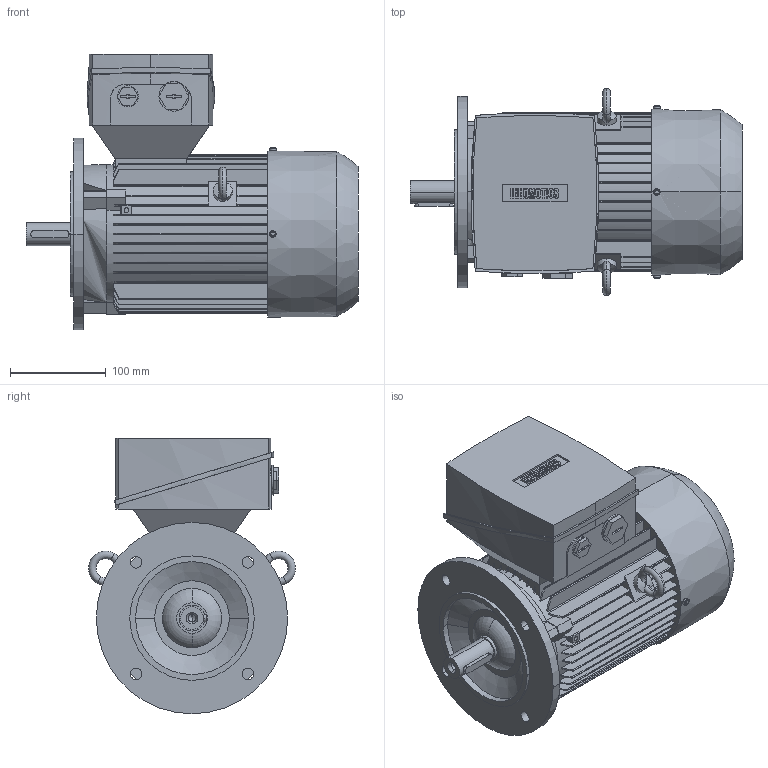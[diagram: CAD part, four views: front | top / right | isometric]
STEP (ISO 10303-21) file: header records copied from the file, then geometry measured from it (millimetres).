
FILE_DESCRIPTION(('STEP AP214'),'1');
FILE_NAME('cctmp_28B35722-5429-4386-8452-66524643DA60_2026_04_15_12_16_03_0519_13396..stp','2026-04-15T10:16:03',('KiM GmbH'),('CADClick - www.CADClick.com'),'Spatial InterOp 3D',' ','unknown authorization');
FILE_SCHEMA(('AUTOMOTIVE_DESIGN'));
Length unit declared in the file: millimetre
Products named in the file (1): 2026_04_15_12_16_03_0517
Bounding box: 347 x 216.39 x 288 mm (x, y, z)
Volume: 7664277.5 mm3; surface area: 485356.5 mm2
Topology: 1 solids, 1 shells, 744 faces, 2089 edges, 1369 vertices
Faces by surface type: plane 453, cylinder 209, torus 60, cone 18, sphere 4
Entity records: 31673 total; most frequent: CARTESIAN_POINT 6187, ORIENTED_EDGE 4154, DIRECTION 4054, EDGE_CURVE 2075, VERTEX_POINT 1369, AXIS2_PLACEMENT_3D 1363, LINE 1328, VECTOR 1328
